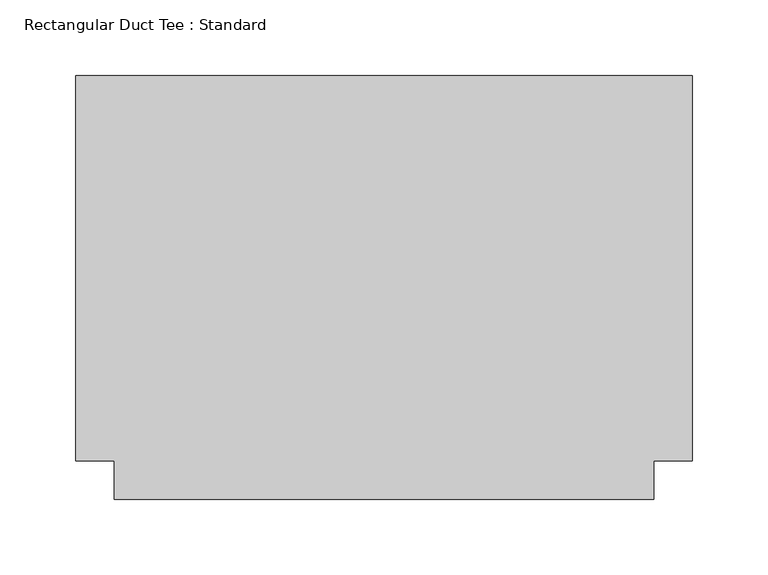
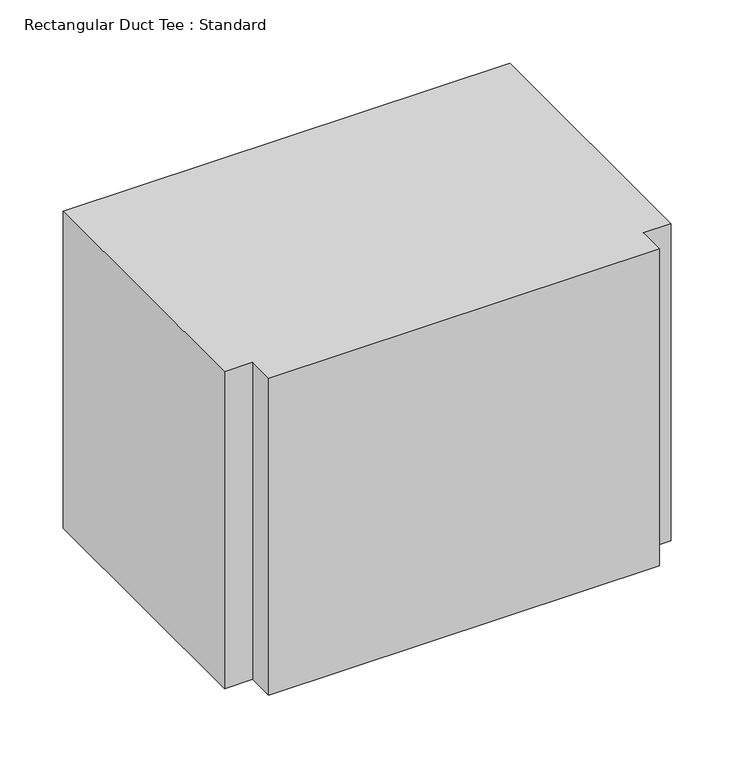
"""IFC4 building model written with IfcOpenShell, lengths in millimetres: duct fitting geometry, Rectangular Duct Tee : Standard."""

from ifc_helpers import new_model, si_unit, frame, origin, place, context, project, spatial, polyline, outline, extrude, source, transform, mapped, element, save


def rectangular_duct_tee_standard_5efa4bea(model_context):
    return source(origin(), model_context, "Body", "SweptSolid", [
        extrude(outline(polyline([(-203.2, -127.0), (-203.2, 127.0), (203.2, 127.0), (203.2, -127.0), (177.8, -127.0), (177.8, -152.4), (-177.8, -152.4), (-177.8, -127.0), (-203.2, -127.0)])), frame((0.0, 0.0, -152.4), z_axis=(0.0, 0.0, 1.0), x_axis=(1.0, 0.0, 0.0)), (0.0, 0.0, 1.0), 304.8),
        extrude(outline(polyline([(-203.2, 127.0), (203.2, 127.0), (203.2, -127.0), (177.8, -127.0), (177.8, -152.4), (-177.8, -152.4), (-177.8, -127.0), (-203.2, -127.0), (-203.2, 127.0)])), frame((0.0, 0.0, -152.4), z_axis=(0.0, 0.0, 1.0), x_axis=(1.0, 0.0, 0.0)), (0.0, 0.0, 1.0), 304.8),
        extrude(outline(polyline([(-203.2, -127.0), (-203.2, 127.0), (203.2, 127.0), (203.2, -127.0), (177.8, -127.0), (177.8, -152.4), (-177.8, -152.4), (-177.8, -127.0), (-203.2, -127.0)])), frame((0.0, 0.0, -152.4), z_axis=(0.0, 0.0, 1.0), x_axis=(1.0, 0.0, 0.0)), (0.0, 0.0, 1.0), 304.8),
    ])


if __name__ == "__main__":
    model = new_model("IFC4")
    model_context = context("Model", 3, world=origin())
    ifc_project = project(units=[si_unit("LENGTHUNIT", "METRE", prefix="MILLI")], contexts=[model_context])
    site = spatial("IfcSite", under=ifc_project)
    building = spatial("IfcBuilding", under=site)
    placement = place(None, origin())
    rectangular_duct_tee_standard_shape = rectangular_duct_tee_standard_5efa4bea(model_context)
    element("IfcDuctFitting", 1, ObjectType="Rectangular Duct Tee : Standard", at=placement, inside=building, context=model_context, shape_type="MappedRepresentation", body=[
        mapped(rectangular_duct_tee_standard_shape, transform((0.0, 0.0, 0.0), x_axis=(1.0, 0.0, 0.0), y_axis=(0.0, 1.0, 0.0), z_axis=(0.0, 0.0, 1.0))),
    ])
    save(model, "model.ifc")
